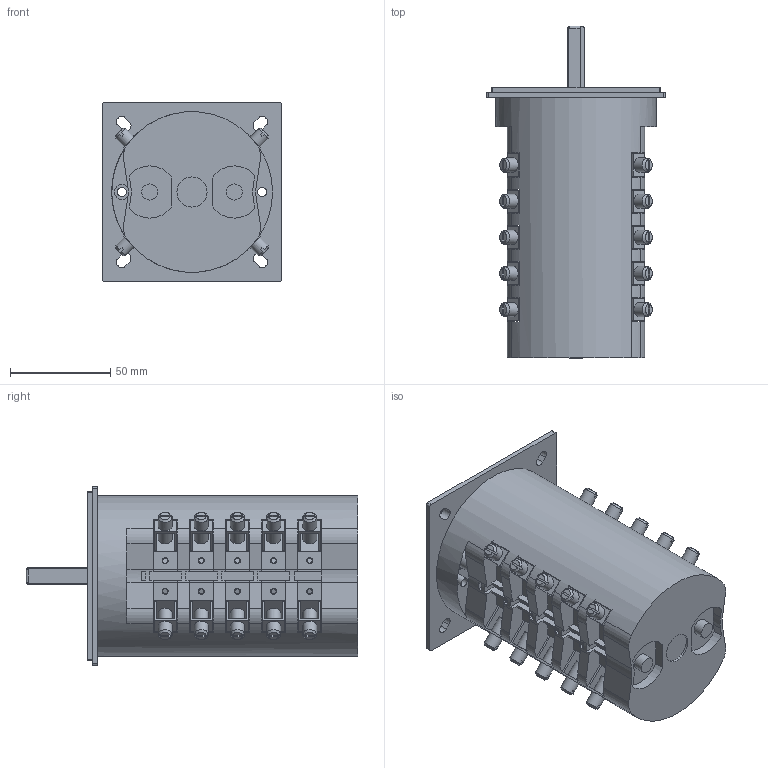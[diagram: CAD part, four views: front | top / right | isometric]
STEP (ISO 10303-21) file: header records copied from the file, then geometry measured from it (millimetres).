
FILE_DESCRIPTION(/* description */ (''),/* implementation_level */ '2;1');
FILE_NAME(/* name */ '4G80-U_5_korpusow.stp',/* time_stamp */ '2021-07-22T07:16:03+02:00',/* author */ (''),/* organization */ (''),/* preprocessor_version */ 'ST-DEVELOPER v18.1',/* originating_system */ 'SIEMENS PLM Software NX 1965',/* authorisation */ '');
FILE_SCHEMA (('AUTOMOTIVE_DESIGN { 1 0 10303 214 3 1 1 1 }'));
Length unit declared in the file: millimetre
Products named in the file (1): 4G80-U_5_korpusow_stp
Bounding box: 89.2 x 165.25 x 89.2 mm (x, y, z)
Volume: 562878.8 mm3; surface area: 106945.9 mm2
Topology: 1 solids, 33 shells, 988 faces, 2546 edges, 1696 vertices
Faces by surface type: plane 708, cylinder 217, cone 60, bspline 3
Full cylindrical faces by diameter (mm): 2.5 x20, 4.5 x2, 7 x40, 7.5 x2, 8 x4, 8.5 x2, 11.6 x2, 12 x3, 15 x1, 80 x1
Entity records: 30455 total; most frequent: CARTESIAN_POINT 6878, DIRECTION 4769, ORIENTED_EDGE 4740, EDGE_CURVE 2370, LINE 1689, VECTOR 1689, VERTEX_POINT 1625, AXIS2_PLACEMENT_3D 1540
